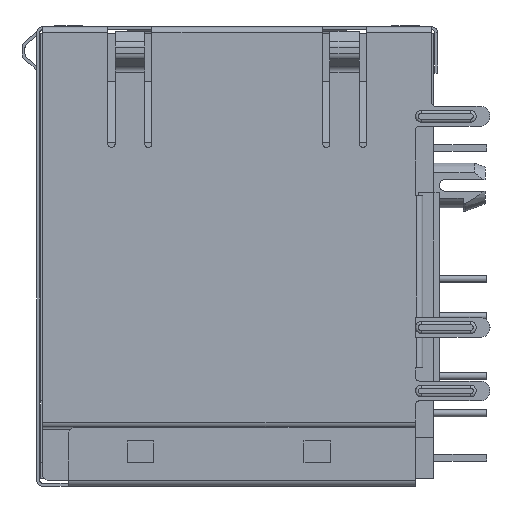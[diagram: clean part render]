
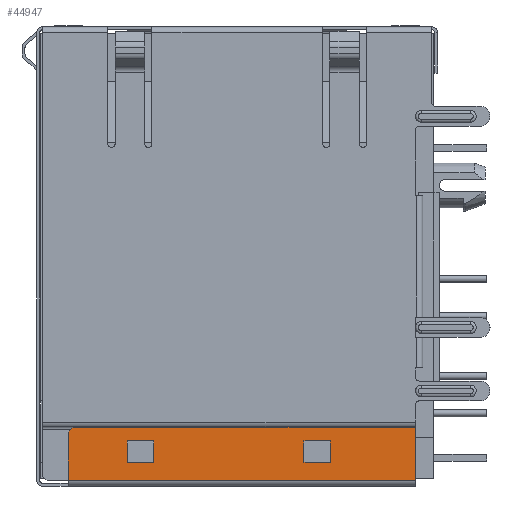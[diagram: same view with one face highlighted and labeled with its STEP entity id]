
A CAD part, left-side view. The second image highlights one B-rep face of the part: STEP entity #44947.
In plain terms, the highlighted planar face has unit normal (-1, 0, 0).
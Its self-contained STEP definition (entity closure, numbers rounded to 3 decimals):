
#37192=DIRECTION('',(0.,1.,0.));
#37193=VECTOR('',#37192,1.45);
#37194=CARTESIAN_POINT('',(-8.565,-29.41,-7.475));
#37195=LINE('',#37194,#37193);
#37225=DIRECTION('',(0.,1.,0.));
#37226=VECTOR('',#37225,1.45);
#37227=CARTESIAN_POINT('',(-8.565,-29.41,4.545));
#37228=LINE('',#37227,#37226);
#37253=DIRECTION('',(0.,-1.,0.));
#37254=VECTOR('',#37253,1.45);
#37255=CARTESIAN_POINT('',(-8.565,-27.96,6.345));
#37256=LINE('',#37255,#37254);
#37294=DIRECTION('',(0.,-1.,0.));
#37295=VECTOR('',#37294,1.45);
#37296=CARTESIAN_POINT('',(-8.565,-27.96,-5.655));
#37297=LINE('',#37296,#37295);
#37334=CARTESIAN_POINT('',(-8.565,-27.53,-10.985));
#37335=DIRECTION('',(-1.,0.,0.));
#37336=DIRECTION('',(0.,1.,0.));
#37337=AXIS2_PLACEMENT_3D('',#37334,#37335,#37336);
#37347=DIRECTION('',(0.,0.,-1.));
#37348=VECTOR('',#37347,1.8);
#37349=CARTESIAN_POINT('',(-8.565,-27.96,6.345));
#37350=LINE('',#37349,#37348);
#37376=DIRECTION('',(0.,0.,1.));
#37377=VECTOR('',#37376,1.8);
#37378=CARTESIAN_POINT('',(-8.565,-29.41,4.545));
#37379=LINE('',#37378,#37377);
#37396=DIRECTION('',(0.,0.,-1.));
#37397=VECTOR('',#37396,1.82);
#37398=CARTESIAN_POINT('',(-8.565,-27.96,-5.655));
#37399=LINE('',#37398,#37397);
#37416=DIRECTION('',(0.,0.,1.));
#37417=VECTOR('',#37416,1.82);
#37418=CARTESIAN_POINT('',(-8.565,-29.41,-7.475));
#37419=LINE('',#37418,#37417);
#37434=DIRECTION('',(0.,0.,-1.));
#37435=VECTOR('',#37434,23.095);
#37436=CARTESIAN_POINT('',(-8.565,-27.03,12.11));
#37437=LINE('',#37436,#37435);
#37501=DIRECTION('',(0.,1.,0.));
#37502=VECTOR('',#37501,3.6);
#37503=CARTESIAN_POINT('',(-8.565,-30.63,12.11));
#37504=LINE('',#37503,#37502);
#41388=DIRECTION('',(0.,0.,1.));
#41389=VECTOR('',#41388,23.595);
#41390=CARTESIAN_POINT('',(-8.565,-30.63,-11.485));
#41391=LINE('',#41390,#41389);
#41400=DIRECTION('',(0.,-1.,0.));
#41401=VECTOR('',#41400,3.1);
#41402=CARTESIAN_POINT('',(-8.565,-27.53,-11.485));
#41403=LINE('',#41402,#41401);
#42976=CARTESIAN_POINT('',(-8.565,-30.63,12.11));
#42977=VERTEX_POINT('',#42976);
#42978=CARTESIAN_POINT('',(-8.565,-27.03,12.11));
#42979=VERTEX_POINT('',#42978);
#44595=CARTESIAN_POINT('',(-8.565,-27.96,-5.655));
#44597=VERTEX_POINT('',#44595);
#44599=CARTESIAN_POINT('',(-8.565,-27.96,4.545));
#44601=VERTEX_POINT('',#44599);
#44603=CARTESIAN_POINT('',(-8.565,-27.96,6.345));
#44605=VERTEX_POINT('',#44603);
#44606=CARTESIAN_POINT('',(-8.565,-29.41,4.545));
#44607=CARTESIAN_POINT('',(-8.565,-29.41,6.345));
#44608=VERTEX_POINT('',#44606);
#44609=VERTEX_POINT('',#44607);
#44610=CARTESIAN_POINT('',(-8.565,-29.41,-7.475));
#44611=CARTESIAN_POINT('',(-8.565,-29.41,-5.655));
#44612=VERTEX_POINT('',#44610);
#44613=VERTEX_POINT('',#44611);
#44623=CARTESIAN_POINT('',(-8.565,-27.96,-7.475));
#44625=VERTEX_POINT('',#44623);
#44630=CARTESIAN_POINT('',(-8.565,-30.63,-11.485));
#44631=VERTEX_POINT('',#44630);
#44654=CARTESIAN_POINT('',(-8.565,-27.03,-10.985));
#44656=VERTEX_POINT('',#44654);
#44658=CARTESIAN_POINT('',(-8.565,-27.53,-11.485));
#44659=VERTEX_POINT('',#44658);
#44914=CARTESIAN_POINT('',(-8.565,-31.03,-13.225));
#44915=DIRECTION('',(1.,0.,0.));
#44916=DIRECTION('',(0.,0.,-1.));
#44917=AXIS2_PLACEMENT_3D('',#44914,#44915,#44916);
#44918=PLANE('',#44917);
#44920=ORIENTED_EDGE('',*,*,#44919,.F.);
#44922=ORIENTED_EDGE('',*,*,#44921,.F.);
#44924=ORIENTED_EDGE('',*,*,#44923,.F.);
#44926=ORIENTED_EDGE('',*,*,#44925,.F.);
#44928=ORIENTED_EDGE('',*,*,#44927,.F.);
#44929=EDGE_LOOP('',(#44920,#44922,#44924,#44926,#44928));
#44930=FACE_OUTER_BOUND('',#44929,.F.);
#44931=ORIENTED_EDGE('',*,*,#44879,.F.);
#44933=ORIENTED_EDGE('',*,*,#44932,.T.);
#44934=ORIENTED_EDGE('',*,*,#44695,.F.);
#44936=ORIENTED_EDGE('',*,*,#44935,.T.);
#44937=EDGE_LOOP('',(#44931,#44933,#44934,#44936));
#44938=FACE_BOUND('',#44937,.F.);
#44939=ORIENTED_EDGE('',*,*,#44803,.F.);
#44941=ORIENTED_EDGE('',*,*,#44940,.T.);
#44942=ORIENTED_EDGE('',*,*,#44763,.F.);
#44944=ORIENTED_EDGE('',*,*,#44943,.T.);
#44945=EDGE_LOOP('',(#44939,#44941,#44942,#44944));
#44946=FACE_BOUND('',#44945,.F.);
#44947=ADVANCED_FACE('',(#44930,#44938,#44946),#44918,.F.);
#37338=CIRCLE('',#37337,0.5);
#44695=EDGE_CURVE('',#44612,#44625,#37195,.T.);
#44763=EDGE_CURVE('',#44608,#44601,#37228,.T.);
#44803=EDGE_CURVE('',#44605,#44609,#37256,.T.);
#44879=EDGE_CURVE('',#44597,#44613,#37297,.T.);
#44919=EDGE_CURVE('',#44656,#44659,#37338,.T.);
#44921=EDGE_CURVE('',#42979,#44656,#37437,.T.);
#44923=EDGE_CURVE('',#42977,#42979,#37504,.T.);
#44925=EDGE_CURVE('',#44631,#42977,#41391,.T.);
#44927=EDGE_CURVE('',#44659,#44631,#41403,.T.);
#44932=EDGE_CURVE('',#44597,#44625,#37399,.T.);
#44935=EDGE_CURVE('',#44612,#44613,#37419,.T.);
#44940=EDGE_CURVE('',#44605,#44601,#37350,.T.);
#44943=EDGE_CURVE('',#44608,#44609,#37379,.T.);
